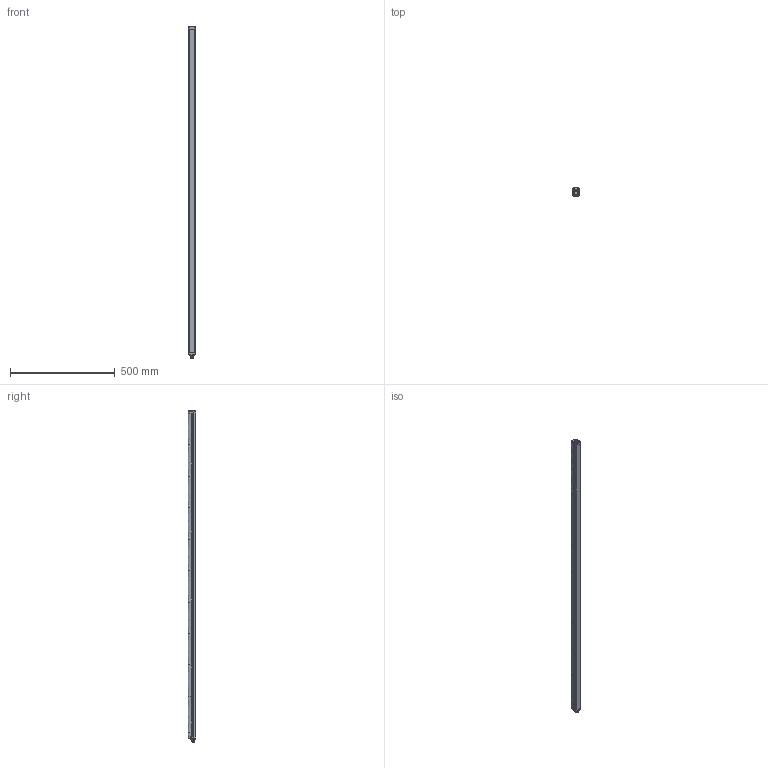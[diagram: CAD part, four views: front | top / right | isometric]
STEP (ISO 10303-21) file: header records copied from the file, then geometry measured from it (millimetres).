
FILE_DESCRIPTION(/* description */ (''),/* implementation_level */ '2;1');
FILE_NAME(/* name */ 'DSD-0178.stp',/* time_stamp */ '2020-07-16T16:32:04+02:00',/* author */ (''),/* organization */ (''),/* preprocessor_version */ 'ST-DEVELOPER v16.7',/* originating_system */ 'SIEMENS PLM Software NX 12.0',/* authorisation */ '');
FILE_SCHEMA (('AUTOMOTIVE_DESIGN { 1 0 10303 214 3 1 1 1 }'));
Products named in the file (1): MBra3A584E81k9r8
Bounding box: 32.3 x 36.9 x 1582.94 mm (x, y, z)
Volume: 1614928.7 mm3; surface area: 368058.8 mm2
Topology: 31 solids, 34 shells, 1686 faces, 3823 edges, 2160 vertices
Faces by surface type: cylinder 631, bspline 600, plane 384, cone 35, extrusion 26, sphere 10
Full cylindrical faces by diameter (mm): 0.8 x16, 1.5 x6, 2 x12, 2.05 x4, 2.5 x12, 2.7 x10, 2.9 x6, 3 x24, 3.4 x6, 3.6 x12, 4.7 x2, 5 x10, 5.3 x2, 7.5 x1, 8 x1, 8.3 x1, 9.3 x1, 9.5 x1, 9.55 x1, 10.5 x1, 11 x2, 12 x12, 13.97 x1, 14.3 x1, 16 x2
Entity records: 62603 total; most frequent: CARTESIAN_POINT 27505, DIRECTION 7015, ORIENTED_EDGE 6950, EDGE_CURVE 3475, AXIS2_PLACEMENT_3D 2921, VERTEX_POINT 2152, EDGE_LOOP 2037, CIRCLE 1838
